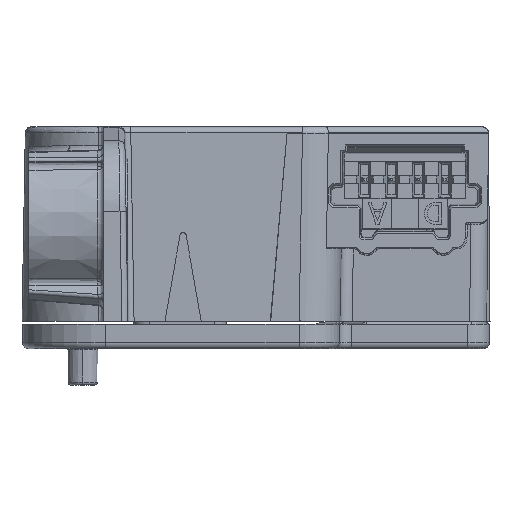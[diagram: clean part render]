
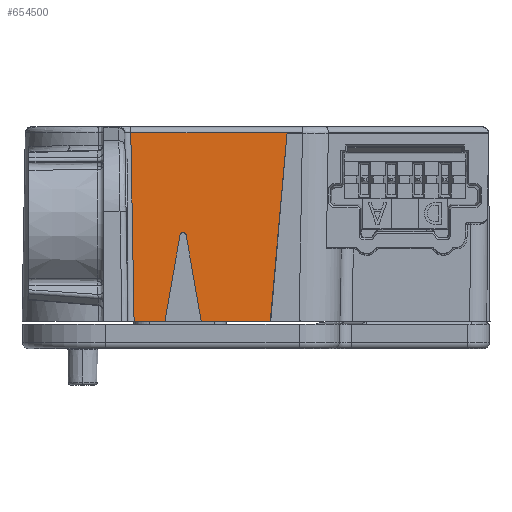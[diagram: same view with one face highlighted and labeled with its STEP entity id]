
A CAD part, left-side view. The second image highlights one B-rep face of the part: STEP entity #654500.
In plain terms, the highlighted planar face has unit normal (-1, 0, 0.018) as drawn and (-1, 0, -0.017) by its records, which use the part's own axes.
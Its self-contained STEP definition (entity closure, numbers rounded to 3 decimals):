
#164200=CARTESIAN_POINT('',(-29.529,-0.051,
2.55));
#164210=VERTEX_POINT('',#164200);
#164280=CARTESIAN_POINT('',(-29.799,-1.431,18.));
#164290=VERTEX_POINT('',#164280);
#164320=CARTESIAN_POINT('',(-29.485,0.177,0.));
#164330=DIRECTION('',(0.017,0.089,
-0.996));
#164340=VECTOR('',#164330,1.);
#164350=LINE('',#164320,#164340);
#164360=EDGE_CURVE('',#164290,#164210,#164350,.T.);
#167710=CARTESIAN_POINT('',(-29.799,-12.633,18.));
#167720=VERTEX_POINT('',#167710);
#167750=CARTESIAN_POINT('',(-29.799,0.,18.));
#167760=DIRECTION('',(0.,-1.,0.));
#167770=VECTOR('',#167760,1.);
#167780=LINE('',#167750,#167770);
#167790=CARTESIAN_POINT('',(-29.799,-10.103,18.));
#167800=VERTEX_POINT('',#167790);
#167810=EDGE_CURVE('',#167800,#167720,#167780,.T.);
#167870=CARTESIAN_POINT('',(-29.799,-7.103,18.));
#167880=VERTEX_POINT('',#167870);
#167910=EDGE_CURVE('',#164290,#167880,#167780,.T.);
#649890=CARTESIAN_POINT('',(-29.528,-12.904,
2.491));
#649900=VERTEX_POINT('',#649890);
#650380=CARTESIAN_POINT('',(-29.485,-12.947,
0.009));
#650390=DIRECTION('',(0.017,-0.017,
-1.));
#650400=VECTOR('',#650390,1.);
#650410=LINE('',#650380,#650400);
#650420=EDGE_CURVE('',#167720,#649900,#650410,.T.);
#650610=CARTESIAN_POINT('',(-29.529,1.217,
2.491));
#650620=VERTEX_POINT('',#650610);
#650650=CARTESIAN_POINT('',(-29.528,0.,2.491));
#650660=DIRECTION('',(0.,1.,0.));
#650670=VECTOR('',#650660,1.);
#650680=LINE('',#650650,#650670);
#650690=EDGE_CURVE('',#649900,#650620,#650680,.T.);
#653730=CARTESIAN_POINT('',(-29.529,0.,
2.55));
#653740=DIRECTION('',(0.,1.,0.));
#653750=VECTOR('',#653740,1.);
#653760=LINE('',#653730,#653750);
#653770=CARTESIAN_POINT('',(-29.53,1.217,
2.55));
#653780=VERTEX_POINT('',#653770);
#653790=EDGE_CURVE('',#164210,#653780,#653760,.T.);
#653900=CARTESIAN_POINT('',(-29.52,0.761,
2.));
#653910=DIRECTION('',(-1.,-0.,-0.017));
#653920=DIRECTION('',(0.,-1.,0.));
#653930=AXIS2_PLACEMENT_3D('',#653900,#653910,#653920);
#653940=PLANE('',#653930);
#653950=ORIENTED_EDGE('',*,*,#650690,.F.);
#653960=CARTESIAN_POINT('',(-29.529,1.217,
2.491));
#653970=CARTESIAN_POINT('',(-29.529,1.218,
2.498));
#653980=CARTESIAN_POINT('',(-29.529,1.212,
2.509));
#653990=CARTESIAN_POINT('',(-29.529,1.218,
2.509));
#654000=B_SPLINE_CURVE_WITH_KNOTS('',3,(#653960,#653970,#653980,#653990)
,.UNSPECIFIED.,.F.,.F.,(4,4),(0.,0.017),.UNSPECIFIED.);
#654010=CARTESIAN_POINT('',(-29.529,1.218,
2.509));
#654020=VERTEX_POINT('',#654010);
#654030=EDGE_CURVE('',#650620,#654020,#654000,.T.);
#654040=ORIENTED_EDGE('',*,*,#654030,.F.);
#654050=CARTESIAN_POINT('',(-29.519,1.209,
1.942));
#654060=DIRECTION('',(-0.017,0.017,
1.));
#654070=VECTOR('',#654060,1.);
#654080=LINE('',#654050,#654070);
#654090=CARTESIAN_POINT('',(-29.529,1.219,
2.55));
#654100=VERTEX_POINT('',#654090);
#654110=EDGE_CURVE('',#654020,#654100,#654080,.T.);
#654120=ORIENTED_EDGE('',*,*,#654110,.F.);
#654130=CARTESIAN_POINT('',(-26.179,1.218,
2.55));
#654140=DIRECTION('',(0.,0.,-1.));
#654150=DIRECTION('',(1.,0.,0.));
#654160=AXIS2_PLACEMENT_3D('',#654130,#654140,#654150);
#654170=CIRCLE('',#654160,3.352);
#654180=EDGE_CURVE('',#653780,#654100,#654170,.T.);
#654190=ORIENTED_EDGE('',*,*,#654180,.T.);
#654200=ORIENTED_EDGE('',*,*,#653790,.T.);
#654210=ORIENTED_EDGE('',*,*,#164360,.T.);
#654220=ORIENTED_EDGE('',*,*,#167910,.F.);
#654230=CARTESIAN_POINT('',(-29.485,-10.277,0.));
#654240=DIRECTION('',(0.017,-0.174,
-0.985));
#654250=VECTOR('',#654240,1.);
#654260=LINE('',#654230,#654250);
#654270=CARTESIAN_POINT('',(-29.675,-8.357,
10.889));
#654280=VERTEX_POINT('',#654270);
#654290=EDGE_CURVE('',#167880,#654280,#654260,.T.);
#654300=ORIENTED_EDGE('',*,*,#654290,.F.);
#654310=CARTESIAN_POINT('',(-29.676,-8.603,
10.933));
#654320=DIRECTION('',(-1.,0.,-0.017));
#654330=DIRECTION('',(-0.017,0.,1.));
#654340=AXIS2_PLACEMENT_3D('',#654310,#654320,#654330);
#654350=ELLIPSE('',#654340,0.25,0.25);
#654360=CARTESIAN_POINT('',(-29.675,-8.85,
10.889));
#654370=VERTEX_POINT('',#654360);
#654380=EDGE_CURVE('',#654280,#654370,#654350,.T.);
#654390=ORIENTED_EDGE('',*,*,#654380,.F.);
#654400=CARTESIAN_POINT('',(-29.485,-6.929,0.));
#654410=DIRECTION('',(-0.017,-0.174,
0.985));
#654420=VECTOR('',#654410,1.);
#654430=LINE('',#654400,#654420);
#654440=EDGE_CURVE('',#654370,#167800,#654430,.T.);
#654450=ORIENTED_EDGE('',*,*,#654440,.F.);
#654460=ORIENTED_EDGE('',*,*,#167810,.F.);
#654470=ORIENTED_EDGE('',*,*,#650420,.F.);
#654480=EDGE_LOOP('',(#654470,#654460,#654450,#654390,#654300,#654220,
#654210,#654200,#654190,#654120,#654040,#653950));
#654490=FACE_OUTER_BOUND('',#654480,.T.);
#654500=ADVANCED_FACE('',(#654490),#653940,.T.);
